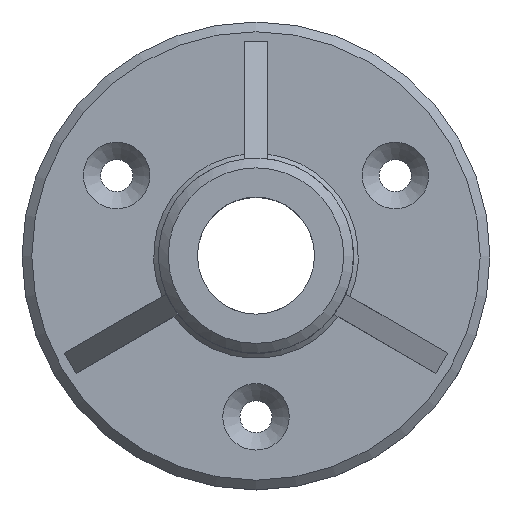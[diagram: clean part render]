
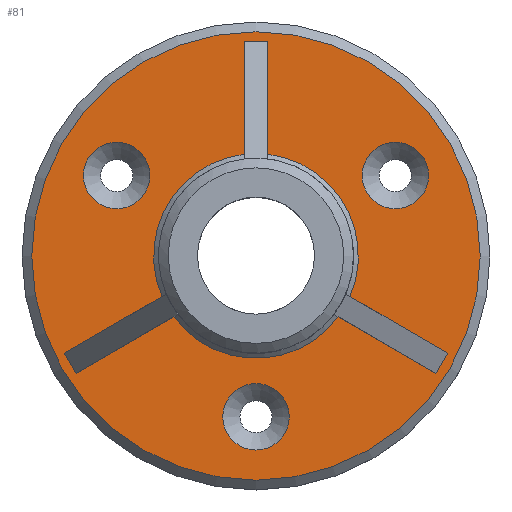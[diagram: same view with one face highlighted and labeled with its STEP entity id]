
A CAD part, top view. The second image highlights one B-rep face of the part: STEP entity #81.
In plain terms, the highlighted planar face has unit normal (0, 0, 1).
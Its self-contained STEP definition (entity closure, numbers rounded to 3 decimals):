
#66=PLANE('',#627);
#81=ADVANCED_FACE('',(#209,#210,#211,#212,#213),#66,.T.);
#134=LINE('',#890,#159);
#135=LINE('',#895,#160);
#136=LINE('',#897,#161);
#137=LINE('',#899,#162);
#138=LINE('',#903,#163);
#139=LINE('',#905,#164);
#140=LINE('',#907,#165);
#141=LINE('',#911,#166);
#142=LINE('',#913,#167);
#159=VECTOR('',#708,1.);
#160=VECTOR('',#711,1.);
#161=VECTOR('',#712,1.);
#162=VECTOR('',#713,1.);
#163=VECTOR('',#716,1.);
#164=VECTOR('',#717,1.);
#165=VECTOR('',#718,1.);
#166=VECTOR('',#721,1.);
#167=VECTOR('',#722,1.);
#182=CIRCLE('',#620,11.365);
#183=CIRCLE('',#621,11.365);
#184=CIRCLE('',#622,11.365);
#185=CIRCLE('',#623,35.);
#186=CIRCLE('',#624,35.);
#187=CIRCLE('',#625,35.);
#188=CIRCLE('',#626,76.667);
#209=FACE_BOUND('',#257,.T.);
#210=FACE_BOUND('',#258,.T.);
#211=FACE_BOUND('',#259,.T.);
#212=FACE_BOUND('',#260,.T.);
#213=FACE_BOUND('',#261,.T.);
#257=EDGE_LOOP('',(#333));
#258=EDGE_LOOP('',(#334));
#259=EDGE_LOOP('',(#335));
#260=EDGE_LOOP('',(#336,#337,#338,#339,#340,#341,#342,#343,#344,#345,#346,
#347));
#261=EDGE_LOOP('',(#348));
#333=ORIENTED_EDGE('',*,*,#535,.T.);
#334=ORIENTED_EDGE('',*,*,#536,.T.);
#335=ORIENTED_EDGE('',*,*,#537,.T.);
#336=ORIENTED_EDGE('',*,*,#538,.F.);
#337=ORIENTED_EDGE('',*,*,#539,.T.);
#338=ORIENTED_EDGE('',*,*,#540,.T.);
#339=ORIENTED_EDGE('',*,*,#541,.F.);
#340=ORIENTED_EDGE('',*,*,#542,.F.);
#341=ORIENTED_EDGE('',*,*,#543,.T.);
#342=ORIENTED_EDGE('',*,*,#544,.T.);
#343=ORIENTED_EDGE('',*,*,#545,.F.);
#344=ORIENTED_EDGE('',*,*,#546,.F.);
#345=ORIENTED_EDGE('',*,*,#547,.T.);
#346=ORIENTED_EDGE('',*,*,#548,.T.);
#347=ORIENTED_EDGE('',*,*,#549,.T.);
#348=ORIENTED_EDGE('',*,*,#550,.T.);
#479=VERTEX_POINT('',#885);
#480=VERTEX_POINT('',#887);
#481=VERTEX_POINT('',#889);
#482=VERTEX_POINT('',#891);
#483=VERTEX_POINT('',#892);
#484=VERTEX_POINT('',#894);
#485=VERTEX_POINT('',#896);
#486=VERTEX_POINT('',#898);
#487=VERTEX_POINT('',#900);
#488=VERTEX_POINT('',#902);
#489=VERTEX_POINT('',#904);
#490=VERTEX_POINT('',#906);
#491=VERTEX_POINT('',#908);
#492=VERTEX_POINT('',#910);
#493=VERTEX_POINT('',#912);
#494=VERTEX_POINT('',#915);
#535=EDGE_CURVE('',#479,#479,#182,.T.);
#536=EDGE_CURVE('',#480,#480,#183,.T.);
#537=EDGE_CURVE('',#481,#481,#184,.T.);
#538=EDGE_CURVE('',#482,#483,#134,.T.);
#539=EDGE_CURVE('',#482,#484,#185,.T.);
#540=EDGE_CURVE('',#484,#485,#135,.T.);
#541=EDGE_CURVE('',#486,#485,#136,.T.);
#542=EDGE_CURVE('',#487,#486,#137,.T.);
#543=EDGE_CURVE('',#487,#488,#186,.T.);
#544=EDGE_CURVE('',#488,#489,#138,.T.);
#545=EDGE_CURVE('',#490,#489,#139,.T.);
#546=EDGE_CURVE('',#491,#490,#140,.T.);
#547=EDGE_CURVE('',#491,#492,#187,.T.);
#548=EDGE_CURVE('',#492,#493,#141,.T.);
#549=EDGE_CURVE('',#493,#483,#142,.T.);
#550=EDGE_CURVE('',#494,#494,#188,.T.);
#620=AXIS2_PLACEMENT_3D('',#884,#702,#703);
#621=AXIS2_PLACEMENT_3D('',#886,#704,#705);
#622=AXIS2_PLACEMENT_3D('',#888,#706,#707);
#623=AXIS2_PLACEMENT_3D('',#893,#709,#710);
#624=AXIS2_PLACEMENT_3D('',#901,#714,#715);
#625=AXIS2_PLACEMENT_3D('',#909,#719,#720);
#626=AXIS2_PLACEMENT_3D('',#914,#723,#724);
#627=AXIS2_PLACEMENT_3D('',#916,#725,#726);
#702=DIRECTION('',(0.,0.,-1.));
#703=DIRECTION('',(-1.,0.,0.));
#704=DIRECTION('',(0.,0.,-1.));
#705=DIRECTION('',(-1.,0.,0.));
#706=DIRECTION('',(0.,0.,-1.));
#707=DIRECTION('',(-1.,0.,0.));
#708=DIRECTION('',(0.,1.,0.));
#709=DIRECTION('',(0.,0.,-1.));
#710=DIRECTION('',(1.,0.,0.));
#711=DIRECTION('',(0.866,-0.5,0.));
#712=DIRECTION('',(0.5,0.866,0.));
#713=DIRECTION('',(0.866,-0.5,0.));
#714=DIRECTION('',(0.,0.,-1.));
#715=DIRECTION('',(1.,0.,0.));
#716=DIRECTION('',(-0.866,-0.5,0.));
#717=DIRECTION('',(0.5,-0.866,0.));
#718=DIRECTION('',(-0.866,-0.5,0.));
#719=DIRECTION('',(0.,0.,-1.));
#720=DIRECTION('',(1.,0.,0.));
#721=DIRECTION('',(0.,1.,0.));
#722=DIRECTION('',(1.,0.,0.));
#723=DIRECTION('',(0.,0.,1.));
#724=DIRECTION('',(1.,0.,0.));
#725=DIRECTION('',(0.,0.,1.));
#726=DIRECTION('',(1.,0.,0.));
#884=CARTESIAN_POINT('',(0.,-55.,13.333));
#885=CARTESIAN_POINT('',(-11.365,-55.,13.333));
#886=CARTESIAN_POINT('',(47.631,27.5,13.333));
#887=CARTESIAN_POINT('',(36.266,27.5,13.333));
#888=CARTESIAN_POINT('',(-47.631,27.5,13.333));
#889=CARTESIAN_POINT('',(-58.996,27.5,13.333));
#890=CARTESIAN_POINT('',(4.,26.667,13.333));
#891=CARTESIAN_POINT('',(4.,34.771,13.333));
#892=CARTESIAN_POINT('',(4.,73.333,13.333));
#893=CARTESIAN_POINT('',(0.,0.,13.333));
#894=CARTESIAN_POINT('',(32.112,-13.921,13.333));
#895=CARTESIAN_POINT('',(25.094,-9.869,13.333));
#896=CARTESIAN_POINT('',(65.509,-33.203,13.333));
#897=CARTESIAN_POINT('',(61.509,-40.131,13.333));
#898=CARTESIAN_POINT('',(61.509,-40.131,13.333));
#899=CARTESIAN_POINT('',(21.094,-16.797,13.333));
#900=CARTESIAN_POINT('',(28.112,-20.849,13.333));
#901=CARTESIAN_POINT('',(0.,0.,13.333));
#902=CARTESIAN_POINT('',(-28.112,-20.849,13.333));
#903=CARTESIAN_POINT('',(-21.094,-16.797,13.333));
#904=CARTESIAN_POINT('',(-61.509,-40.131,13.333));
#905=CARTESIAN_POINT('',(-65.509,-33.203,13.333));
#906=CARTESIAN_POINT('',(-65.509,-33.203,13.333));
#907=CARTESIAN_POINT('',(-25.094,-9.869,13.333));
#908=CARTESIAN_POINT('',(-32.112,-13.921,13.333));
#909=CARTESIAN_POINT('',(0.,0.,13.333));
#910=CARTESIAN_POINT('',(-4.,34.771,13.333));
#911=CARTESIAN_POINT('',(-4.,26.667,13.333));
#912=CARTESIAN_POINT('',(-4.,73.333,13.333));
#913=CARTESIAN_POINT('',(4.,73.333,13.333));
#914=CARTESIAN_POINT('',(0.,0.,13.333));
#915=CARTESIAN_POINT('',(76.667,0.,13.333));
#916=CARTESIAN_POINT('',(80.,0.,13.333));
